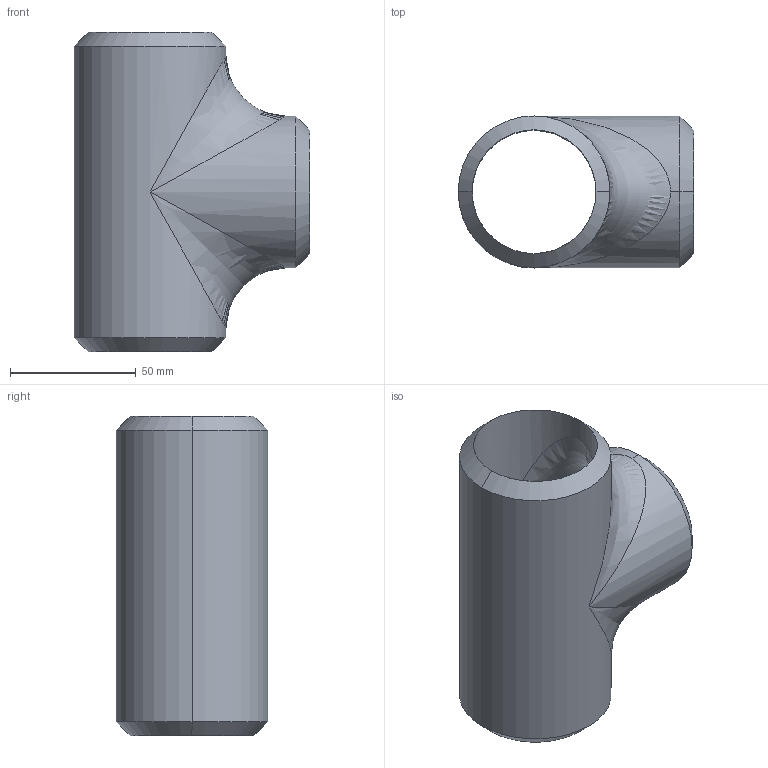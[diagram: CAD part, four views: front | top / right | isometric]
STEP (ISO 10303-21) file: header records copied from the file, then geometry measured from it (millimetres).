
FILE_DESCRIPTION (( 'STEP AP203' ), '1' );
FILE_NAME ('3D_R266_2x80S_173445151.STEP', '2024-08-23T10:58:49', ( '' ), ( '' ), 'SwSTEP 2.0', 'SolidWorks 2024', '' );
FILE_SCHEMA (( 'CONFIG_CONTROL_DESIGN' ));
Length unit declared in the file: millimetre
Products named in the file (1): 3D_R266_2x80S_173445151
Bounding box: 93.65 x 60.3 x 127 mm (x, y, z)
Volume: 138204 mm3; surface area: 53678.5 mm2
Topology: 1 solids, 1 shells, 21 faces, 58 edges, 30 vertices
Faces by surface type: cylinder 8, cone 6, bspline 4, plane 3
Entity records: 1339 total; most frequent: CARTESIAN_POINT 818, ORIENTED_EDGE 100, DIRECTION 88, EDGE_CURVE 50, AXIS2_PLACEMENT_3D 36, VERTEX_POINT 30, EDGE_LOOP 24, ADVANCED_FACE 21
